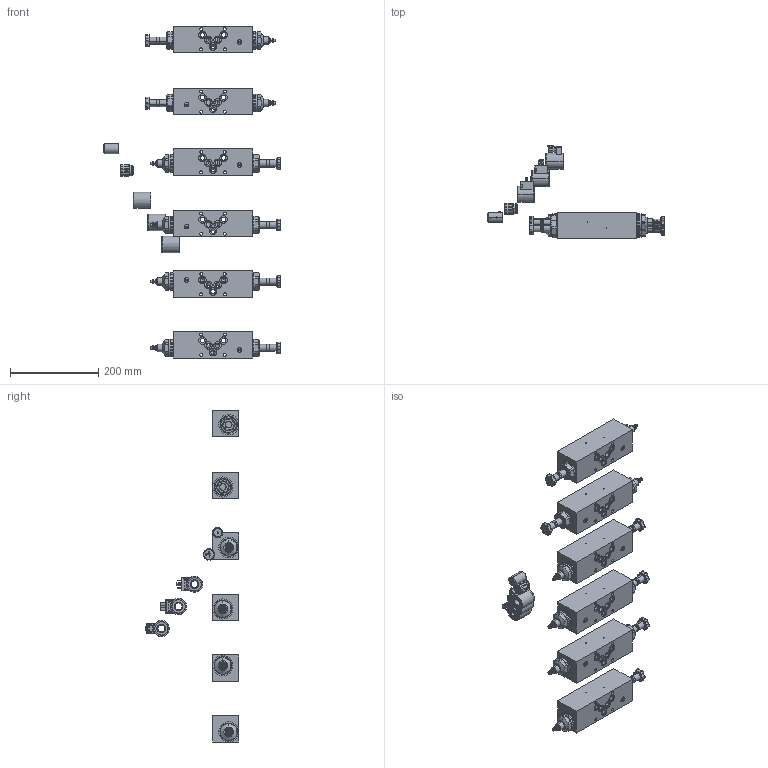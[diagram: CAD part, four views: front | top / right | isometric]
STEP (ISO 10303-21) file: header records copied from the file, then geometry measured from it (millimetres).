
FILE_DESCRIPTION (( 'STEP AP214' ), '1' );
FILE_NAME ('VQSSA10-T.STEP', '2017-04-06T10:55:50', ( '' ), ( '' ), 'SwSTEP 2.0', 'SolidWorks 2016', '' );
FILE_SCHEMA (( 'AUTOMOTIVE_DESIGN' ));
Length unit declared in the file: millimetre
Products named in the file (12): 0213825_001; 0216106_001; 0216105_001; 0216103_001; 0216101_001; 0216099_001; 0216097_001; 0145229_002; 0145227_002; 0145221_001; 0213823_001; VQSSA10-T
Assembly tree (11 placements, depth 2):
  VQSSA10-T
    0213823_001
    0145221_001
    0145227_002
    0145229_002
    0216097_001
    0216099_001
    0216101_001
    0216103_001
    0216105_001
    0216106_001
    0213825_001
Bounding box: 402.32 x 213.08 x 754.37 mm (x, y, z)
Volume: 4147189.9 mm3; surface area: 515784.2 mm2
Topology: 46 solids, 46 shells, 2849 faces, 6912 edges, 4271 vertices
Faces by surface type: cylinder 1180, plane 947, cone 514, torus 186, bspline 22
Entity records: 121131 total; most frequent: CARTESIAN_POINT 21833, DIRECTION 14902, ORIENTED_EDGE 13592, EDGE_CURVE 6796, AXIS2_PLACEMENT_3D 6000, VERTEX_POINT 4271, EDGE_LOOP 3233, CIRCLE 3159
